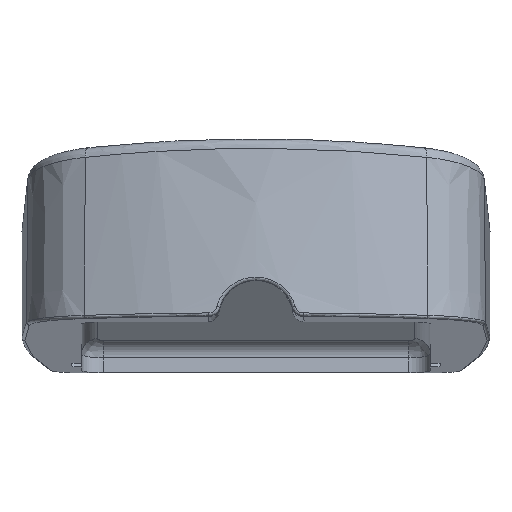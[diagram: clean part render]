
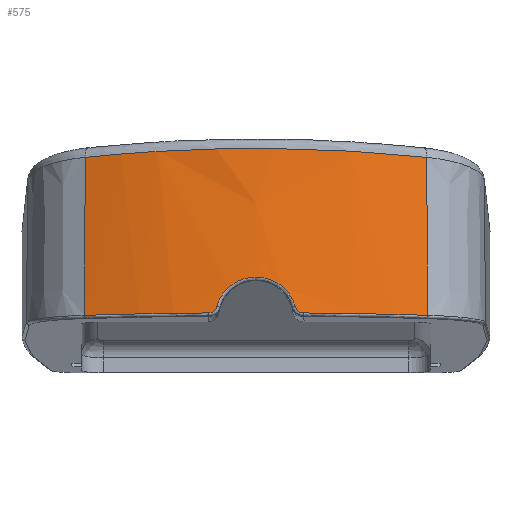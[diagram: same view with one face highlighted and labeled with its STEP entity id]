
A CAD part, front view. The second image highlights one B-rep face of the part: STEP entity #575.
In plain terms, the highlighted free-form (B-spline) face has degree [3, 3] with [4, 7] control points.
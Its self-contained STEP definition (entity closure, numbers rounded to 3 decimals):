
#537=B_SPLINE_SURFACE_WITH_KNOTS('',3,3,((#7408,#7409,#7410,#7411,#7412,
#7413,#7414),(#7415,#7416,#7417,#7418,#7419,#7420,#7421),(#7422,#7423,#7424,
#7425,#7426,#7427,#7428),(#7429,#7430,#7431,#7432,#7433,#7434,#7435)),.UNSPECIFIED.,
 .F.,.F.,.F.,(4,4),(4,3,4),(0.,1.),(0.,0.5,1.),.UNSPECIFIED.);
#575=ADVANCED_FACE('',(#974),#537,.T.);
#974=FACE_OUTER_BOUND('',#1269,.T.);
#1269=EDGE_LOOP('',(#2285,#2286,#2287,#2288,#2289,#2290,#2291,#2292));
#2285=ORIENTED_EDGE('',*,*,#4397,.T.);
#2286=ORIENTED_EDGE('',*,*,#4398,.T.);
#2287=ORIENTED_EDGE('',*,*,#4399,.T.);
#2288=ORIENTED_EDGE('',*,*,#4400,.T.);
#2289=ORIENTED_EDGE('',*,*,#4401,.T.);
#2290=ORIENTED_EDGE('',*,*,#4402,.T.);
#2291=ORIENTED_EDGE('',*,*,#4403,.T.);
#2292=ORIENTED_EDGE('',*,*,#4404,.T.);
#3877=VERTEX_POINT('',#7337);
#3878=VERTEX_POINT('',#7338);
#3879=VERTEX_POINT('',#7343);
#3880=VERTEX_POINT('',#7357);
#3881=VERTEX_POINT('',#7368);
#3882=VERTEX_POINT('',#7382);
#3883=VERTEX_POINT('',#7387);
#3884=VERTEX_POINT('',#7401);
#4397=EDGE_CURVE('',#3877,#3878,#5173,.T.);
#4398=EDGE_CURVE('',#3878,#3879,#5174,.T.);
#4399=EDGE_CURVE('',#3879,#3880,#5175,.T.);
#4400=EDGE_CURVE('',#3880,#3881,#5176,.T.);
#4401=EDGE_CURVE('',#3881,#3882,#5177,.T.);
#4402=EDGE_CURVE('',#3882,#3883,#5178,.T.);
#4403=EDGE_CURVE('',#3883,#3884,#5179,.T.);
#4404=EDGE_CURVE('',#3884,#3877,#5180,.T.);
#5173=B_SPLINE_CURVE_WITH_KNOTS('',3,(#7324,#7325,#7326,#7327,#7328,#7329,
#7330,#7331,#7332,#7333,#7334,#7335,#7336),.UNSPECIFIED.,.F.,.F.,(4,3,3,
3,4),(0.,0.35,0.693,0.966,1.),.UNSPECIFIED.);
#5174=B_SPLINE_CURVE_WITH_KNOTS('',3,(#7339,#7340,#7341,#7342),.UNSPECIFIED.,
 .F.,.F.,(4,4),(0.,1.),.UNSPECIFIED.);
#5175=B_SPLINE_CURVE_WITH_KNOTS('',3,(#7344,#7345,#7346,#7347,#7348,#7349,
#7350,#7351,#7352,#7353,#7354,#7355,#7356),.UNSPECIFIED.,.F.,.F.,(4,3,3,
3,4),(0.,0.255,0.509,0.761,1.),.UNSPECIFIED.);
#5176=B_SPLINE_CURVE_WITH_KNOTS('',3,(#7358,#7359,#7360,#7361,#7362,#7363,
#7364,#7365,#7366,#7367),.UNSPECIFIED.,.F.,.F.,(4,2,2,2,4),(0.,0.25,0.5,
0.75,1.),.UNSPECIFIED.);
#5177=B_SPLINE_CURVE_WITH_KNOTS('',3,(#7369,#7370,#7371,#7372,#7373,#7374,
#7375,#7376,#7377,#7378,#7379,#7380,#7381),.UNSPECIFIED.,.F.,.F.,(4,3,3,
3,4),(0.,0.252,0.503,0.755,1.),.UNSPECIFIED.);
#5178=B_SPLINE_CURVE_WITH_KNOTS('',3,(#7383,#7384,#7385,#7386),.UNSPECIFIED.,
 .F.,.F.,(4,4),(0.,1.),.UNSPECIFIED.);
#5179=B_SPLINE_CURVE_WITH_KNOTS('',3,(#7388,#7389,#7390,#7391,#7392,#7393,
#7394,#7395,#7396,#7397,#7398,#7399,#7400),.UNSPECIFIED.,.F.,.F.,(4,3,3,
3,4),(0.,0.034,0.447,0.789,1.),.UNSPECIFIED.);
#5180=B_SPLINE_CURVE_WITH_KNOTS('',3,(#7402,#7403,#7404,#7405,#7406,#7407),
 .UNSPECIFIED.,.F.,.F.,(4,2,4),(0.,0.5,1.),.UNSPECIFIED.);
#7324=CARTESIAN_POINT('',(259.6,0.709,139.202));
#7325=CARTESIAN_POINT('',(259.575,0.161,135.969));
#7326=CARTESIAN_POINT('',(259.551,-0.388,132.737));
#7327=CARTESIAN_POINT('',(259.528,-0.937,129.504));
#7328=CARTESIAN_POINT('',(259.506,-1.472,126.348));
#7329=CARTESIAN_POINT('',(259.485,-2.008,123.192));
#7330=CARTESIAN_POINT('',(259.464,-2.545,120.036));
#7331=CARTESIAN_POINT('',(259.448,-2.973,117.517));
#7332=CARTESIAN_POINT('',(259.432,-3.401,114.998));
#7333=CARTESIAN_POINT('',(259.417,-3.829,112.48));
#7334=CARTESIAN_POINT('',(259.415,-3.883,112.163));
#7335=CARTESIAN_POINT('',(259.413,-3.937,111.846));
#7336=CARTESIAN_POINT('',(259.411,-3.991,111.528));
#7337=CARTESIAN_POINT('',(259.6,0.709,139.202));
#7338=CARTESIAN_POINT('',(259.411,-3.991,111.528));
#7339=CARTESIAN_POINT('',(259.411,-3.991,111.528));
#7340=CARTESIAN_POINT('',(266.469,-6.386,111.744));
#7341=CARTESIAN_POINT('',(273.765,-7.932,111.883));
#7342=CARTESIAN_POINT('',(281.191,-8.6,111.943));
#7343=CARTESIAN_POINT('',(281.191,-8.6,111.943));
#7344=CARTESIAN_POINT('',(281.191,-8.6,111.943));
#7345=CARTESIAN_POINT('',(281.359,-8.615,111.945));
#7346=CARTESIAN_POINT('',(281.53,-8.625,111.974));
#7347=CARTESIAN_POINT('',(281.689,-8.63,112.03));
#7348=CARTESIAN_POINT('',(281.848,-8.634,112.086));
#7349=CARTESIAN_POINT('',(282.,-8.633,112.17));
#7350=CARTESIAN_POINT('',(282.133,-8.626,112.274));
#7351=CARTESIAN_POINT('',(282.264,-8.619,112.378));
#7352=CARTESIAN_POINT('',(282.379,-8.607,112.506));
#7353=CARTESIAN_POINT('',(282.469,-8.59,112.646));
#7354=CARTESIAN_POINT('',(282.553,-8.574,112.779));
#7355=CARTESIAN_POINT('',(282.617,-8.554,112.927));
#7356=CARTESIAN_POINT('',(282.655,-8.532,113.079));
#7357=CARTESIAN_POINT('',(282.655,-8.532,113.079));
#7358=CARTESIAN_POINT('',(282.655,-8.532,113.079));
#7359=CARTESIAN_POINT('',(283.031,-8.309,114.572));
#7360=CARTESIAN_POINT('',(283.942,-8.156,115.89));
#7361=CARTESIAN_POINT('',(286.431,-7.968,117.723));
#7362=CARTESIAN_POINT('',(287.953,-7.93,118.21));
#7363=CARTESIAN_POINT('',(291.053,-7.93,118.209));
#7364=CARTESIAN_POINT('',(292.572,-7.968,117.722));
#7365=CARTESIAN_POINT('',(295.057,-8.156,115.892));
#7366=CARTESIAN_POINT('',(295.971,-8.309,114.572));
#7367=CARTESIAN_POINT('',(296.347,-8.531,113.079));
#7368=CARTESIAN_POINT('',(296.347,-8.531,113.079));
#7369=CARTESIAN_POINT('',(296.347,-8.531,113.079));
#7370=CARTESIAN_POINT('',(296.387,-8.555,112.919));
#7371=CARTESIAN_POINT('',(296.456,-8.576,112.763));
#7372=CARTESIAN_POINT('',(296.547,-8.592,112.625));
#7373=CARTESIAN_POINT('',(296.639,-8.609,112.486));
#7374=CARTESIAN_POINT('',(296.756,-8.62,112.361));
#7375=CARTESIAN_POINT('',(296.889,-8.627,112.259));
#7376=CARTESIAN_POINT('',(297.021,-8.633,112.158));
#7377=CARTESIAN_POINT('',(297.173,-8.634,112.077));
#7378=CARTESIAN_POINT('',(297.331,-8.629,112.024));
#7379=CARTESIAN_POINT('',(297.485,-8.625,111.972));
#7380=CARTESIAN_POINT('',(297.649,-8.615,111.945));
#7381=CARTESIAN_POINT('',(297.811,-8.6,111.943));
#7382=CARTESIAN_POINT('',(297.811,-8.6,111.943));
#7383=CARTESIAN_POINT('',(297.811,-8.6,111.943));
#7384=CARTESIAN_POINT('',(305.236,-7.932,111.883));
#7385=CARTESIAN_POINT('',(312.531,-6.386,111.744));
#7386=CARTESIAN_POINT('',(319.589,-3.991,111.528));
#7387=CARTESIAN_POINT('',(319.589,-3.991,111.528));
#7388=CARTESIAN_POINT('',(319.589,-3.991,111.528));
#7389=CARTESIAN_POINT('',(319.587,-3.937,111.846));
#7390=CARTESIAN_POINT('',(319.585,-3.883,112.163));
#7391=CARTESIAN_POINT('',(319.583,-3.829,112.48));
#7392=CARTESIAN_POINT('',(319.56,-3.181,116.289));
#7393=CARTESIAN_POINT('',(319.536,-2.534,120.099));
#7394=CARTESIAN_POINT('',(319.51,-1.887,123.908));
#7395=CARTESIAN_POINT('',(319.489,-1.351,127.064));
#7396=CARTESIAN_POINT('',(319.467,-0.815,130.22));
#7397=CARTESIAN_POINT('',(319.444,-0.279,133.376));
#7398=CARTESIAN_POINT('',(319.43,0.05,135.318));
#7399=CARTESIAN_POINT('',(319.415,0.38,137.26));
#7400=CARTESIAN_POINT('',(319.4,0.709,139.202));
#7401=CARTESIAN_POINT('',(319.4,0.709,139.202));
#7402=CARTESIAN_POINT('',(319.4,0.709,139.202));
#7403=CARTESIAN_POINT('',(309.758,-2.503,140.229));
#7404=CARTESIAN_POINT('',(299.835,-4.138,140.751));
#7405=CARTESIAN_POINT('',(279.415,-4.166,140.76));
#7406=CARTESIAN_POINT('',(269.245,-2.504,140.229));
#7407=CARTESIAN_POINT('',(259.6,0.709,139.202));
#7408=CARTESIAN_POINT('',(320.462,-3.72,111.326));
#7409=CARTESIAN_POINT('',(310.521,-7.202,111.641));
#7410=CARTESIAN_POINT('',(300.017,-9.003,111.805));
#7411=CARTESIAN_POINT('',(289.5,-9.003,111.805));
#7412=CARTESIAN_POINT('',(278.983,-9.003,111.805));
#7413=CARTESIAN_POINT('',(268.479,-7.202,111.641));
#7414=CARTESIAN_POINT('',(258.538,-3.72,111.326));
#7415=CARTESIAN_POINT('',(320.212,-2.133,121.049));
#7416=CARTESIAN_POINT('',(310.351,-5.588,121.356));
#7417=CARTESIAN_POINT('',(299.933,-7.376,121.515));
#7418=CARTESIAN_POINT('',(289.5,-7.376,121.515));
#7419=CARTESIAN_POINT('',(279.067,-7.376,121.515));
#7420=CARTESIAN_POINT('',(268.649,-5.588,121.356));
#7421=CARTESIAN_POINT('',(258.788,-2.133,121.049));
#7422=CARTESIAN_POINT('',(319.962,-0.545,130.772));
#7423=CARTESIAN_POINT('',(310.181,-3.975,131.071));
#7424=CARTESIAN_POINT('',(299.848,-5.749,131.225));
#7425=CARTESIAN_POINT('',(289.5,-5.749,131.225));
#7426=CARTESIAN_POINT('',(279.152,-5.749,131.225));
#7427=CARTESIAN_POINT('',(268.819,-3.975,131.071));
#7428=CARTESIAN_POINT('',(259.038,-0.545,130.772));
#7429=CARTESIAN_POINT('',(319.712,1.042,140.495));
#7430=CARTESIAN_POINT('',(310.012,-2.361,140.785));
#7431=CARTESIAN_POINT('',(299.763,-4.122,140.935));
#7432=CARTESIAN_POINT('',(289.5,-4.122,140.935));
#7433=CARTESIAN_POINT('',(279.237,-4.122,140.935));
#7434=CARTESIAN_POINT('',(268.988,-2.361,140.785));
#7435=CARTESIAN_POINT('',(259.288,1.042,140.495));
